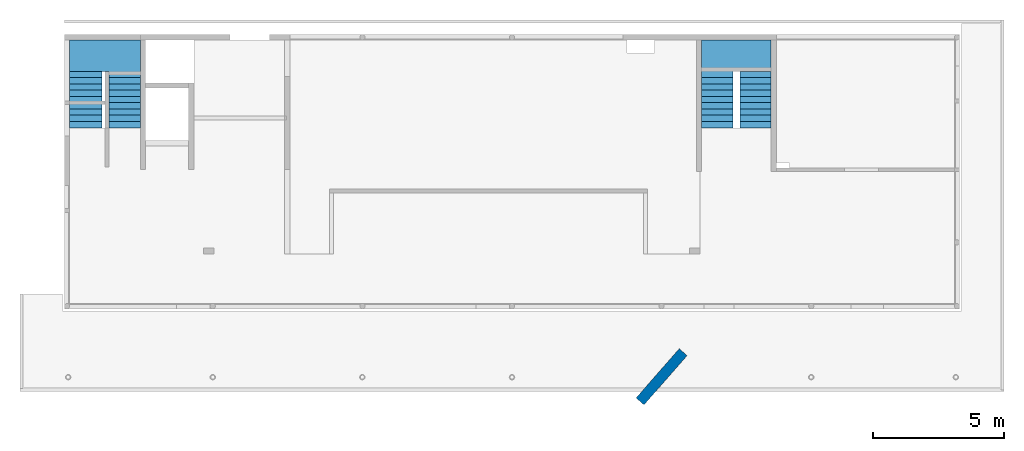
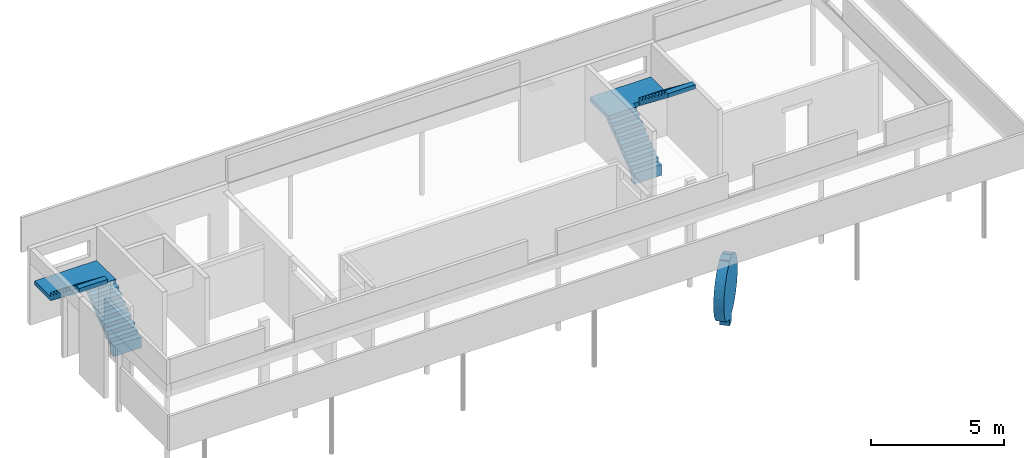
# One storey, part 5 of 5: 2 stairs, 1 column.
"""IFC4 building model written with IfcOpenShell, lengths in metres."""

from ifc_helpers import new_model, entity, si_unit, converted_unit, derived_unit, frame, origin, place, context, subcontext, project, spatial, faceted_brep, material, element, save


model = new_model("IFC4")

# Units and contexts
model_context = context("Model", 3, precision=1e-05, world=origin())
plan_context = context("Plan", 2, precision=1e-05, world=origin())
body_context = subcontext(model_context, "Body", "Model", "MODEL_VIEW")
ifc_project = project(units=[si_unit("LENGTHUNIT", "METRE"), si_unit("AREAUNIT", "SQUARE_METRE"), si_unit("VOLUMEUNIT", "CUBIC_METRE"), si_unit("MASSUNIT", "GRAM", prefix="KILO"), converted_unit("PLANEANGLEUNIT", "DEGREE", entity("IfcPlaneAngleMeasure", 0.0174532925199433), si_unit("PLANEANGLEUNIT", "RADIAN"), dimensions=[0, 0, 0, 0, 0, 0, 0]), derived_unit("THERMALTRANSMITTANCEUNIT", [(si_unit("POWERUNIT", "WATT"), 1), (si_unit("THERMODYNAMICTEMPERATUREUNIT", "KELVIN"), -1), (si_unit("LENGTHUNIT", "METRE"), -2)]), derived_unit("VOLUMETRICFLOWRATEUNIT", [(si_unit("LENGTHUNIT", "METRE"), 3), (converted_unit("TIMEUNIT", "hour", entity("IfcTimeMeasure", 3600.0), si_unit("TIMEUNIT", "SECOND"), dimensions=[0, 0, 1, 0, 0, 0, 0]), -1), (si_unit("LENGTHUNIT", "METRE"), -1)])], contexts=[model_context, plan_context])

# Site, building, storey
site_placement = place(None, origin())
site = spatial("IfcSite", under=ifc_project, at=site_placement, Name="Site", CompositionType="ELEMENT")
building_placement = place(site_placement, origin())
building = spatial("IfcBuilding", under=site, at=building_placement, Name="Admin", CompositionType="ELEMENT")
storey_placement = place(building_placement, frame((0.0, 0.0, -0.26)))
storey = spatial("IfcBuildingStorey", under=building, at=storey_placement, Name="00-Rez", CompositionType="ELEMENT", Elevation=-0.26)

# Column
ifc_material_1 = material(Name="Béton architectonique")
column_placement = place(storey_placement, frame((45.8062849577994, 8.14097658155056, -0.04)))
element("IfcColumn", 1, at=column_placement, inside=storey, material=ifc_material_1, Name="Totem Admin.", PredefinedType="NOTDEFINED", context=body_context, shape_type="Brep", body=[
    faceted_brep([(1.50431426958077, 1.37383866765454, 0.42352462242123), (1.20342667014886, 1.63740393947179, 0.42352462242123), (1.00484259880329, 1.4106992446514, 0.340181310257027), (1.30573019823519, 1.14713397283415, 0.340181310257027), (1.68449908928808, 1.57953867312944, 0.575174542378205), (1.38361148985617, 1.8431039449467, 0.575174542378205), (1.83624954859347, 1.7527778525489, 0.7866851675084), (1.53536194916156, 2.01634312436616, 0.7866851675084), (1.95111414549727, 1.88390792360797, 1.04627674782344), (1.65022654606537, 2.14747319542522, 1.04627674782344), (2.02269567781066, 1.96562580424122, 1.33949174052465), (1.72180807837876, 2.22919107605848, 1.33949174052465), (2.04700752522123, 1.99338034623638, 1.65), (1.74611992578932, 2.25694561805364, 1.65), (2.02269567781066, 1.96562580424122, 1.96050825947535), (1.72180807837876, 2.22919107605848, 1.96050825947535), (1.95111414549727, 1.88390792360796, 2.25372325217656), (1.65022654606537, 2.14747319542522, 2.25372325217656), (1.83624954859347, 1.7527778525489, 2.5133148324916), (1.53536194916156, 2.01634312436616, 2.5133148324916), (1.68449908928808, 1.57953867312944, 2.7248254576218), (1.38361148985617, 1.8431039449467, 2.7248254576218), (1.50431426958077, 1.37383866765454, 2.87647537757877), (1.20342667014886, 1.63740393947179, 2.87647537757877), (1.30573019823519, 1.14713397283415, 2.95981868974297), (1.00484259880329, 1.4106992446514, 2.95981868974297), (1.00484259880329, 1.4106992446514, 2.27373675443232e-16), (1.30573019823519, 1.14713397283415, 2.27373675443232e-16), (1.04216492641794, 0.846246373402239, 0.340181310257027), (1.04216492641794, 0.846246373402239, 2.27373675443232e-16), (0.741277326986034, 1.10981164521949, 2.27373675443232e-16), (0.741277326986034, 1.10981164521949, 0.340181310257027), (0.843580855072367, 0.619541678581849, 2.87647537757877), (0.542693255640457, 0.883106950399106, 2.87647537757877), (0.741277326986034, 1.10981164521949, 2.95981868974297), (1.04216492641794, 0.846246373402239, 2.95981868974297), (0.663396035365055, 0.413841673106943, 2.7248254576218), (0.362508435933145, 0.6774069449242, 2.7248254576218), (0.511645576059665, 0.240602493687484, 2.5133148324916), (0.210757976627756, 0.504167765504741, 2.5133148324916), (0.396780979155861, 0.10947242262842, 2.25372325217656), (0.0958933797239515, 0.373037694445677, 2.25372325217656), (0.325199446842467, 0.0277545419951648, 1.96050825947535), (0.024311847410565, 0.291319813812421, 1.96050825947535), (0.300887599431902, -9.09494701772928e-16, 1.65), (0.0, 0.263565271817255, 1.65), (0.325199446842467, 0.0277545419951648, 1.33949174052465), (0.024311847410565, 0.291319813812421, 1.33949174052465), (0.396780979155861, 0.10947242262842, 1.04627674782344), (0.0958933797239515, 0.373037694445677, 1.04627674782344), (0.511645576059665, 0.240602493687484, 0.786685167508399), (0.210757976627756, 0.504167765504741, 0.786685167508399), (0.663396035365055, 0.413841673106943, 0.575174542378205), (0.362508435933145, 0.677406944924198, 0.575174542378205), (0.843580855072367, 0.619541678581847, 0.423524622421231), (0.542693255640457, 0.883106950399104, 0.423524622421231), (1.00484259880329, 1.4106992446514, 3.0), (0.741277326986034, 1.10981164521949, 3.0), (1.30573019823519, 1.14713397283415, 3.0), (1.04216492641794, 0.846246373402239, 3.0)], [[[0, 1, 2, 3]], [[4, 5, 1, 0]], [[6, 7, 5, 4]], [[8, 9, 7, 6]], [[10, 11, 9, 8]], [[12, 13, 11, 10]], [[14, 15, 13, 12]], [[16, 17, 15, 14]], [[18, 19, 17, 16]], [[20, 21, 19, 18]], [[22, 23, 21, 20]], [[24, 25, 23, 22]], [[2, 26, 27, 3]], [[28, 29, 30, 31]], [[30, 29, 27, 26]], [[32, 33, 34, 35]], [[36, 37, 33, 32]], [[38, 39, 37, 36]], [[40, 41, 39, 38]], [[42, 43, 41, 40]], [[44, 45, 43, 42]], [[46, 47, 45, 44]], [[48, 49, 47, 46]], [[50, 51, 49, 48]], [[52, 53, 51, 50]], [[54, 55, 53, 52]], [[28, 31, 55, 54]], [[31, 30, 26, 2, 1, 5, 7, 9, 11, 13, 15, 17, 19, 21, 23, 25, 56, 57, 34, 33, 37, 39, 41, 43, 45, 47, 49, 51, 53, 55]], [[24, 58, 56, 25]], [[34, 57, 59, 35]], [[56, 58, 59, 57]], [[3, 27, 29, 28, 54, 52, 50, 48, 46, 44, 42, 40, 38, 36, 32, 35, 59, 58, 24, 22, 20, 18, 16, 14, 12, 10, 8, 6, 4, 0]]], orient=[[False], [False], [False], [False], [False], [False], [False], [False], [False], [False], [False], [False], [False], [False], [False], [False], [False], [False], [False], [False], [False], [False], [False], [False], [False], [False], [False], [False], [False], [False], [False], [False]]),
])

# Stairs
ifc_material_2 = material(Name="C30/37")
stair_1_placement = place(storey_placement, frame((24.1998001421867, 18.7894421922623, 0.0)))
element("IfcStair", 2, at=stair_1_placement, inside=storey, material=ifc_material_2, Name="Escalier Préfab.", PredefinedType="NOTDEFINED", context=body_context, shape_type="Brep", body=[
    faceted_brep([(1.24002048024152, 2.16000719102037, 1.79518373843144), (1.50002048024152, 2.16000719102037, 1.79518373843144), (1.50002048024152, 2.15990719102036, 1.79518373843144), (2.7000298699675, 2.15989999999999, 1.79518373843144), (2.7000298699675, 3.36, 1.79518373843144), (-3.63797880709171e-15, 3.36000719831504, 1.79518373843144), (0.0, 2.15990719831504, 1.79518373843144), (1.24002048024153, 2.15990719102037, 1.79518373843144), (1.24002048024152, 2.16000719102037, 1.985), (1.24002048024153, 2.15990719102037, 1.985), (0.0, 2.15990719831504, 1.985), (-3.63797880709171e-15, 3.36000719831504, 1.985), (2.7000298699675, 3.36, 1.985), (2.7000298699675, 1.91991111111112, 1.985), (1.50002048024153, 1.91991830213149, 1.985), (1.50002048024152, 2.16000719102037, 1.985), (1.50002048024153, 0.239996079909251, 0.682222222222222), (1.50002048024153, 0.479984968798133, 0.682222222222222), (2.7000298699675, 0.479977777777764, 0.682222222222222), (2.7000298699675, 0.239988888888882, 0.682222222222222), (2.7000298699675, 0.239988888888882, 0.496111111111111), (1.50002048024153, 0.239996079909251, 0.496111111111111), (1.50002048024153, 0.479984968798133, 0.868333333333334), (2.7000298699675, 0.479977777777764, 0.868333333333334), (1.50002048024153, 0.719973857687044, 0.868333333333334), (2.7000298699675, 0.719966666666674, 0.868333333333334), (1.50002048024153, 0.719973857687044, 1.05444444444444), (2.7000298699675, 0.719966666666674, 1.05444444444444), (1.50002048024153, 0.959962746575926, 1.05444444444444), (2.7000298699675, 0.959955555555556, 1.05444444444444), (1.50002048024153, 0.959962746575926, 1.24055555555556), (2.7000298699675, 0.959955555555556, 1.24055555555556), (1.50002048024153, 1.19995163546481, 1.24055555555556), (2.7000298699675, 1.19994444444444, 1.24055555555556), (1.50002048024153, 1.19995163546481, 1.42666666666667), (2.7000298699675, 1.19994444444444, 1.42666666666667), (1.50002048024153, 1.4399405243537, 1.42666666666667), (2.7000298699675, 1.43993333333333, 1.42666666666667), (1.50002048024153, 1.4399405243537, 1.61277777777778), (2.7000298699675, 1.43993333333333, 1.61277777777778), (1.50002048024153, 1.67992941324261, 1.61277777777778), (2.7000298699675, 1.67992222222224, 1.61277777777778), (1.50002048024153, 1.67992941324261, 1.79888888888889), (2.7000298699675, 1.67992222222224, 1.79888888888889), (1.50002048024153, 1.91991830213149, 1.79888888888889), (2.7000298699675, 1.91991111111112, 1.79888888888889), (1.50002048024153, 0.239996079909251, 0.306294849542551), (2.7000298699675, 0.239988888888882, 0.306294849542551), (1.24002048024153, 2.15990719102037, 2.17111111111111), (0.0, 2.15990719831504, 2.17111111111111), (1.24002048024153, 1.91991830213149, 2.17111111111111), (0.0, 1.91991830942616, 2.17111111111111), (1.24002048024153, 1.91991830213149, 2.35722222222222), (0.0, 1.91991830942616, 2.35722222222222), (1.24002048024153, 1.67992941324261, 2.35722222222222), (0.0, 1.67992942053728, 2.35722222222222), (1.24002048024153, 1.67992941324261, 2.54333333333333), (0.0, 1.67992942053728, 2.54333333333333), (1.24002048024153, 1.43994052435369, 2.54333333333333), (0.0, 1.43994053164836, 2.54333333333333), (1.24002048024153, 1.43994052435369, 2.72944444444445), (0.0, 1.43994053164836, 2.72944444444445), (1.24002048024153, 1.19995163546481, 2.72944444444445), (0.0, 1.19995164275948, 2.72944444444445), (1.24002048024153, 1.19995163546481, 2.91555555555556), (0.0, 1.19995164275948, 2.91555555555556), (1.24002048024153, 0.959962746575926, 2.91555555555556), (0.0, 0.959962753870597, 2.91555555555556), (1.24002048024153, 0.959962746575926, 3.10166666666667), (0.0, 0.959962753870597, 3.10166666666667), (1.24002048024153, 0.719973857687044, 3.10166666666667), (0.0, 0.719973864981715, 3.10166666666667), (1.24002048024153, 0.719973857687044, 3.28777777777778), (0.0, 0.719973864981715, 3.28777777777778), (1.24002048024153, 0.479984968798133, 3.28777777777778), (0.0, 0.479984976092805, 3.28777777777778), (1.24002048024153, 0.479984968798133, 3.47388888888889), (0.0, 0.479984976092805, 3.47388888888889), (1.24002048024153, 0.239996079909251, 3.47388888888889), (0.0, 0.239996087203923, 3.47388888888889), (1.24002048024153, 0.239996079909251, 3.66), (0.0, 0.239996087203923, 3.66), (1.24002048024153, 7.19102036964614e-06, 3.47018373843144), (1.24002048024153, 7.19102036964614e-06, 3.66), (0.0, 7.19831504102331e-06, 3.66), (0.0, 7.19831504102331e-06, 3.47018373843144), (1.50002048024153, 7.19102036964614e-06, 0.496111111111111), (2.7000298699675, 0.0, 0.496111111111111), (1.50002048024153, 7.19102036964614e-06, 2.27373675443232e-16), (2.7000298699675, 0.0, 2.27373675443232e-16), (1.50002048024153, 0.239996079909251, 2.27373675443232e-16), (2.7000298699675, 0.239988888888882, 2.27373675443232e-16)], [[[0, 1, 2, 3, 4, 5, 6, 7]], [[8, 9, 10, 11, 12, 13, 14, 15]], [[0, 8, 15, 1]], [[5, 4, 12, 11]], [[16, 17, 18, 19]], [[16, 19, 20, 21]], [[22, 23, 18, 17]], [[22, 24, 25, 23]], [[26, 27, 25, 24]], [[26, 28, 29, 27]], [[30, 31, 29, 28]], [[30, 32, 33, 31]], [[34, 35, 33, 32]], [[34, 36, 37, 35]], [[38, 39, 37, 36]], [[38, 40, 41, 39]], [[42, 43, 41, 40]], [[42, 44, 45, 43]], [[14, 13, 45, 44]], [[3, 2, 46, 47]], [[48, 49, 10, 9]], [[48, 50, 51, 49]], [[52, 53, 51, 50]], [[52, 54, 55, 53]], [[56, 57, 55, 54]], [[56, 58, 59, 57]], [[60, 61, 59, 58]], [[60, 62, 63, 61]], [[64, 65, 63, 62]], [[64, 66, 67, 65]], [[68, 69, 67, 66]], [[68, 70, 71, 69]], [[72, 73, 71, 70]], [[72, 74, 75, 73]], [[76, 77, 75, 74]], [[76, 78, 79, 77]], [[80, 81, 79, 78]], [[82, 83, 80, 78, 76, 74, 72, 70, 68, 66, 64, 62, 60, 58, 56, 54, 52, 50, 48, 9, 8, 0, 7]], [[6, 5, 11, 10, 49, 51, 53, 55, 57, 59, 61, 63, 65, 67, 69, 71, 73, 75, 77, 79, 81, 84, 85]], [[80, 83, 84, 81]], [[85, 82, 7, 6]], [[85, 84, 83, 82]], [[86, 21, 20, 87]], [[88, 86, 87, 89]], [[90, 91, 47, 46]], [[90, 46, 2, 1, 15, 14, 44, 42, 40, 38, 36, 34, 32, 30, 28, 26, 24, 22, 17, 16, 21, 86, 88]], [[89, 87, 20, 19, 18, 23, 25, 27, 29, 31, 33, 35, 37, 39, 41, 43, 45, 13, 12, 4, 3, 47, 91]], [[89, 91, 90, 88]]], orient=[[False], [False], [False], [False], [False], [False], [False], [False], [False], [False], [False], [False], [False], [False], [False], [False], [False], [False], [False], [False], [False], [False], [False], [False], [False], [False], [False], [False], [False], [False], [False], [False], [False], [False], [False], [False], [False], [False], [False], [False], [False], [False], [False], [False], [False], [False], [False], [False]]),
])
ifc_material_3 = material(Name="C30/37")
stair_2_placement = place(storey_placement, frame((48.3598001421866, 18.7894493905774, 0.0)))
element("IfcStair", 3, at=stair_2_placement, inside=storey, material=ifc_material_3, Name="Escalier Préfab.", PredefinedType="NOTDEFINED", context=body_context, shape_type="Brep", body=[
    faceted_brep([(2.66, 3.36, 1.79518373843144), (0.0, 3.36, 1.79518373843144), (0.0, 2.1599, 1.79518373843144), (1.2, 2.16, 1.79518373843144), (1.46, 2.16, 1.79518373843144), (1.46, 2.1599, 1.79518373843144), (2.66, 2.1599, 1.79518373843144), (2.66, 3.36, 1.985), (2.66, 2.1599, 1.985), (1.46, 2.1599, 1.985), (1.46, 2.16, 1.985), (1.2, 2.16, 1.985), (1.2, 1.91991111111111, 1.985), (0.0, 1.91991111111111, 1.985), (0.0, 3.36, 1.985), (0.0, 0.239988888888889, 0.682222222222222), (0.0, 0.479977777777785, 0.682222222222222), (1.2, 0.479977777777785, 0.682222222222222), (1.2, 0.239988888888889, 0.682222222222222), (1.2, 0.239988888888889, 0.496111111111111), (0.0, 0.239988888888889, 0.496111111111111), (0.0, 0.479977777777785, 0.868333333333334), (1.2, 0.479977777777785, 0.868333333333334), (0.0, 0.719966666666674, 0.868333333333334), (1.2, 0.719966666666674, 0.868333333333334), (0.0, 0.719966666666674, 1.05444444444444), (1.2, 0.719966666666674, 1.05444444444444), (0.0, 0.959955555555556, 1.05444444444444), (1.2, 0.959955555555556, 1.05444444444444), (0.0, 0.959955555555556, 1.24055555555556), (1.2, 0.959955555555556, 1.24055555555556), (0.0, 1.19994444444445, 1.24055555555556), (1.2, 1.19994444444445, 1.24055555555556), (0.0, 1.19994444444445, 1.42666666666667), (1.2, 1.19994444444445, 1.42666666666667), (0.0, 1.43993333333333, 1.42666666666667), (1.2, 1.43993333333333, 1.42666666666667), (0.0, 1.43993333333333, 1.61277777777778), (1.2, 1.43993333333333, 1.61277777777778), (0.0, 1.67992222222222, 1.61277777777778), (1.2, 1.67992222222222, 1.61277777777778), (0.0, 1.67992222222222, 1.79888888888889), (1.2, 1.67992222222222, 1.79888888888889), (0.0, 1.91991111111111, 1.79888888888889), (1.2, 1.91991111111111, 1.79888888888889), (1.2, 1.91991111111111, 1.60907262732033), (0.0, 1.91991111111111, 1.60907262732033), (0.0, 0.239988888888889, 0.306294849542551), (1.2, 0.239988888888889, 0.306294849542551), (2.66, 2.1599, 2.17111111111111), (1.46, 2.1599, 2.17111111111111), (2.66, 1.91991111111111, 2.17111111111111), (1.46, 1.91991111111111, 2.17111111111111), (2.66, 1.91991111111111, 2.35722222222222), (1.46, 1.91991111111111, 2.35722222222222), (2.66, 1.67992222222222, 2.35722222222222), (1.46, 1.67992222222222, 2.35722222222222), (2.66, 1.67992222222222, 2.54333333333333), (1.46, 1.67992222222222, 2.54333333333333), (2.66, 1.43993333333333, 2.54333333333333), (1.46, 1.43993333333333, 2.54333333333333), (2.66, 1.43993333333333, 2.72944444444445), (1.46, 1.43993333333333, 2.72944444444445), (2.66, 1.19994444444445, 2.72944444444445), (1.46, 1.19994444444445, 2.72944444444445), (2.66, 1.19994444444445, 2.91555555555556), (1.46, 1.19994444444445, 2.91555555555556), (2.66, 0.959955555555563, 2.91555555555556), (1.46, 0.959955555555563, 2.91555555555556), (2.66, 0.959955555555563, 3.10166666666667), (1.46, 0.959955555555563, 3.10166666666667), (2.66, 0.719966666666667, 3.10166666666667), (1.46, 0.719966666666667, 3.10166666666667), (2.66, 0.719966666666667, 3.28777777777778), (1.46, 0.719966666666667, 3.28777777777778), (2.66, 0.479977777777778, 3.28777777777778), (1.46, 0.479977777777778, 3.28777777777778), (2.66, 0.479977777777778, 3.47388888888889), (1.46, 0.479977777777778, 3.47388888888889), (2.66, 0.239988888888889, 3.47388888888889), (1.46, 0.239988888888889, 3.47388888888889), (2.66, 0.239988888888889, 3.66), (1.46, 0.239988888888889, 3.66), (2.66, 0.0, 3.47018373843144), (2.66, 0.0, 3.66), (1.46, 0.0, 3.66), (1.46, 0.0, 3.47018373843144), (0.0, 0.0, 0.496111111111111), (1.2, 0.0, 0.496111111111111), (0.0, 0.0, 2.27373675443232e-16), (1.2, 0.0, 2.27373675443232e-16), (0.0, 0.239988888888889, 2.27373675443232e-16), (1.2, 0.239988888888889, 2.27373675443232e-16)], [[[0, 1, 2, 3, 4, 5, 6]], [[7, 8, 9, 10, 11, 12, 13, 14]], [[0, 7, 14, 1]], [[4, 3, 11, 10]], [[15, 16, 17, 18]], [[15, 18, 19, 20]], [[21, 22, 17, 16]], [[21, 23, 24, 22]], [[25, 26, 24, 23]], [[25, 27, 28, 26]], [[29, 30, 28, 27]], [[29, 31, 32, 30]], [[33, 34, 32, 31]], [[33, 35, 36, 34]], [[37, 38, 36, 35]], [[37, 39, 40, 38]], [[41, 42, 40, 39]], [[41, 43, 44, 42]], [[45, 46, 47, 48]], [[13, 12, 44, 43]], [[3, 2, 46]], [[45, 3, 46]], [[49, 50, 9, 8]], [[49, 51, 52, 50]], [[53, 54, 52, 51]], [[53, 55, 56, 54]], [[57, 58, 56, 55]], [[57, 59, 60, 58]], [[61, 62, 60, 59]], [[61, 63, 64, 62]], [[65, 66, 64, 63]], [[65, 67, 68, 66]], [[69, 70, 68, 67]], [[69, 71, 72, 70]], [[73, 74, 72, 71]], [[73, 75, 76, 74]], [[77, 78, 76, 75]], [[77, 79, 80, 78]], [[81, 82, 80, 79]], [[83, 84, 81, 79, 77, 75, 73, 71, 69, 67, 65, 63, 61, 59, 57, 55, 53, 51, 49, 8, 7, 0, 6]], [[5, 4, 10, 9, 50, 52, 54, 56, 58, 60, 62, 64, 66, 68, 70, 72, 74, 76, 78, 80, 82, 85, 86]], [[81, 84, 85, 82]], [[86, 83, 6, 5]], [[86, 85, 84, 83]], [[87, 20, 19, 88]], [[89, 87, 88, 90]], [[91, 92, 48, 47]], [[91, 47, 46, 2, 1, 14, 13, 43, 41, 39, 37, 35, 33, 31, 29, 27, 25, 23, 21, 16, 15, 20, 87, 89]], [[90, 88, 19, 18, 17, 22, 24, 26, 28, 30, 32, 34, 36, 38, 40, 42, 44, 12, 11, 3, 45, 48, 92]], [[90, 92, 91, 89]]], orient=[[False], [False], [False], [False], [False], [False], [False], [False], [False], [False], [False], [False], [False], [False], [False], [False], [False], [False], [False], [False], [False], [False], [False], [False], [False], [False], [False], [False], [False], [False], [False], [False], [False], [False], [False], [False], [False], [False], [False], [False], [False], [False], [False], [False], [False], [False], [False], [False], [False], [False]]),
])

save(model, "model.ifc")
